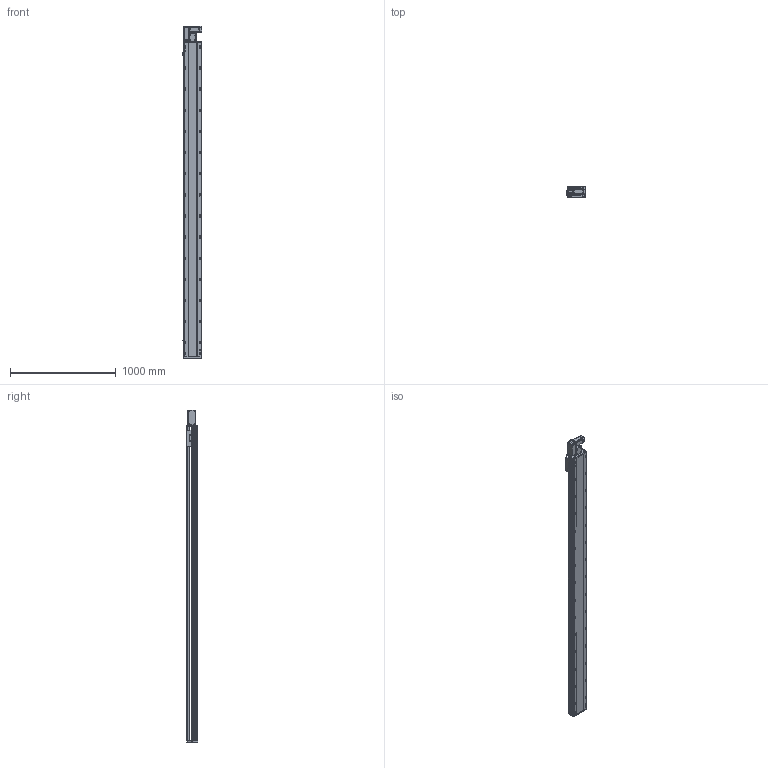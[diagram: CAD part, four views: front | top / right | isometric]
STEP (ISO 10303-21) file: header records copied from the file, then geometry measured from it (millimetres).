
FILE_DESCRIPTION (( 'STEP AP214' ), '1' );
FILE_NAME ('RTB17S-XX-2700-L-M40-C4.STEP', '2025-12-11T05:58:11', ( '' ), ( '' ), 'SwSTEP 2.0', 'SolidWorks 2018', '' );
FILE_SCHEMA (( 'AUTOMOTIVE_DESIGN' ));
Length unit declared in the file: millimetre
Products named in the file (14): RMP17S-L-014-T20--皮带座^RTB17S-L-皮带座装配-400W_RTB17S-XX-XX-L-M40-C4（方程式）; RTB14-L-018P^RTB17S-L-皮带座装配-400W_RTB17S-XX-XX-L-M40-C4（方程式）; RTB14-L-005P--轴承塑胶压盖^RTB17S-L-皮带座装配-400W_RTB17S-XX-XX-L-M40-C4（方程式）; RTB17-R-011底座^RTB17S-XX-XX-L-M40-C4（方程式）; RTB17S-XX-2700-L-M40-C4; RTB17S-L-007上盖^RTB17S-XX-XX-L-M40-C4（方程式）; RTB17S-L-004丝杆螺母连接座^RTB17S-XX-XX-L-M40-C4（方程式）; RTH13-BL-012感应片外置^RTB17S-XX-XX-L-M40-C4（方程式）; RTB17S-L-001侧面板^RTB17S-XX-XX-L-M40-C4（方程式）; 400W伺服电机^RTB17S-XX-XX-L-M40-C4（方程式）; RTB17S-L-皮带座装配-400W^RTB17S-XX-XX-L-M40-C4（方程式）; OMRON EE-SX672 传感器^RTB17S-XX-XX-L-M40-C4（方程式）; RTB14-L-017P^RTB17S-L-皮带座装配-400W_RTB17S-XX-XX-L-M40-C4（方程式）; RTB14-L-008-M20--电机板^RTB17S-L-皮带座装配-400W_RTB17S-XX-XX-L-M40-C4（方程式）
Assembly tree (16 placements, depth 3):
  RTB17S-XX-2700-L-M40-C4
    RTB17-R-011底座^RTB17S-XX-XX-L-M40-C4（方程式）
    RTB17S-L-007上盖^RTB17S-XX-XX-L-M40-C4（方程式）
    OMRON EE-SX672 传感器^RTB17S-XX-XX-L-M40-C4（方程式）  x3
    RTB17S-L-001侧面板^RTB17S-XX-XX-L-M40-C4（方程式）
    400W伺服电机^RTB17S-XX-XX-L-M40-C4（方程式）
    RTB17S-L-004丝杆螺母连接座^RTB17S-XX-XX-L-M40-C4（方程式）
    RTH13-BL-012感应片外置^RTB17S-XX-XX-L-M40-C4（方程式）
    RTB17S-L-皮带座装配-400W^RTB17S-XX-XX-L-M40-C4（方程式）
      RMP17S-L-014-T20--皮带座^RTB17S-L-皮带座装配-400W_RTB17S-XX-XX-L-M40-C4（方程式）
      RTB14-L-005P--轴承塑胶压盖^RTB17S-L-皮带座装配-400W_RTB17S-XX-XX-L-M40-C4（方程式）
      RTB14-L-008-M20--电机板^RTB17S-L-皮带座装配-400W_RTB17S-XX-XX-L-M40-C4（方程式）
      RTB14-L-017P^RTB17S-L-皮带座装配-400W_RTB17S-XX-XX-L-M40-C4（方程式）  x2
      RTB14-L-018P^RTB17S-L-皮带座装配-400W_RTB17S-XX-XX-L-M40-C4（方程式）
Bounding box: 186 x 108 x 3141 mm (x, y, z)
Volume: 26235082.5 mm3; surface area: 3010759.5 mm2
Topology: 15 solids, 15 shells, 2349 faces, 6573 edges, 4293 vertices
Faces by surface type: plane 1086, cylinder 815, bspline 301, cone 139, torus 8
Entity records: 69545 total; most frequent: CARTESIAN_POINT 19778, ORIENTED_EDGE 9990, DIRECTION 9206, EDGE_CURVE 4995, VERTEX_POINT 3281, AXIS2_PLACEMENT_3D 3211, LINE 2784, VECTOR 2784
